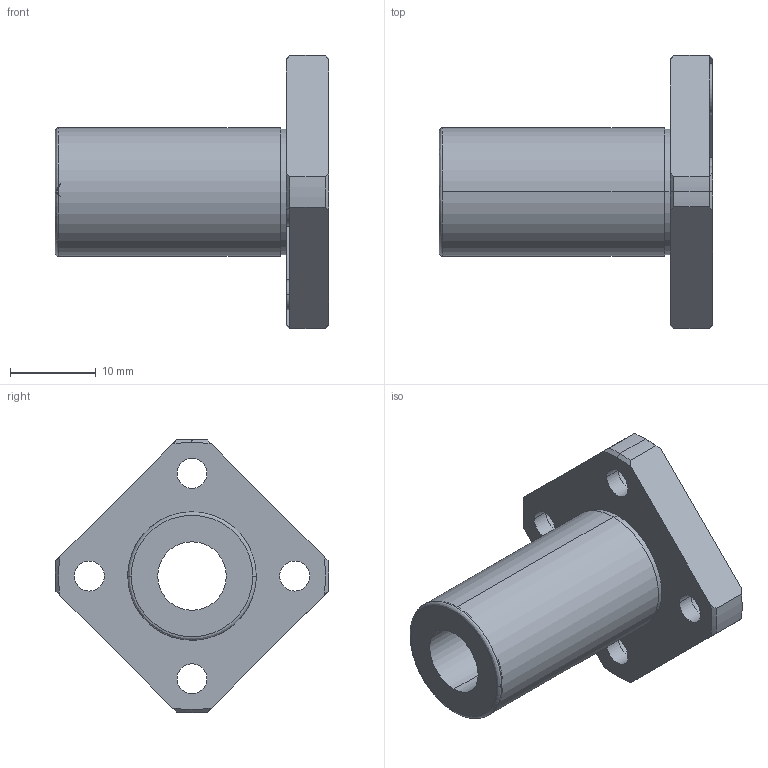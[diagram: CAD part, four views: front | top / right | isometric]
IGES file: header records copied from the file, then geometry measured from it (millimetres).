
Start section: 3D InterOp IGES (Version 21 0 1), Spatial Corp. Copyright (c) 1999-2007.
Global section: file name: NFES-8VM.igs; native system: Spatial Corp.; preprocessor: 3D InterOp GENERIC/IGES 3.0; author: Noname; organization: Noname; date: 20220204.153637; units: millimetre
Bounding box: 32 x 31.98 x 31.99 mm (x, y, z)
Surface area: 4079 mm2 (no closed solid volume)
Topology: 0 solids, 0 shells, 51 faces, 258 edges, 256 vertices
Faces by surface type: revolution 39, extrusion 12
